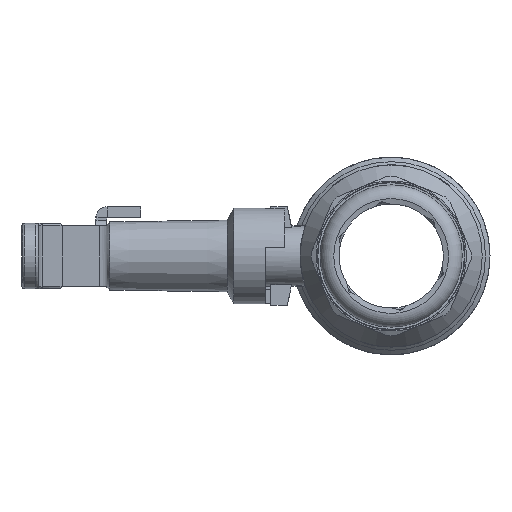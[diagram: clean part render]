
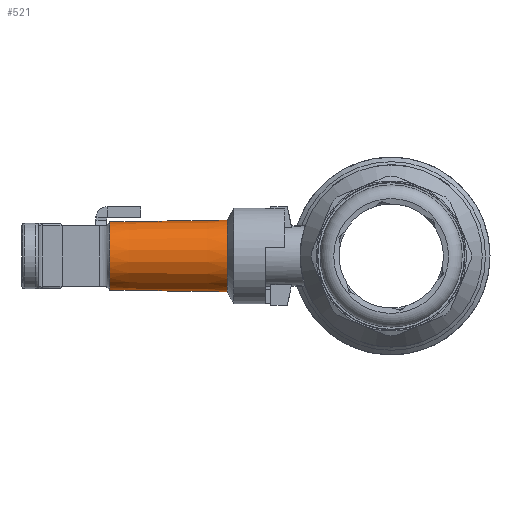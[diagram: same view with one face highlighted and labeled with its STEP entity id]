
A CAD part, left-side view. The second image highlights one B-rep face of the part: STEP entity #521.
In plain terms, the highlighted conical face has half-angle 0.781 degrees and reference radius 13.041 mm.
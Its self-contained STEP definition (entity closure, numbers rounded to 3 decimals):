
#490=CARTESIAN_POINT('',(0.189,102.986,-12.514));
#491=VERTEX_POINT('',#490);
#492=CARTESIAN_POINT('',(0.189,102.986,0.));
#493=DIRECTION('',(0.0,-1.0,0.0));
#494=DIRECTION('',(0.0,0.0,-1.0));
#495=AXIS2_PLACEMENT_3D('',#492,#493,#494);
#496=CIRCLE('',#495,12.514);
#497=EDGE_CURVE('',#491,#491,#496,.T.);
#502=CARTESIAN_POINT('',(0.189,64.302,0.0));
#503=DIRECTION('',(0.,-1.0,0.));
#504=DIRECTION('',(-1.0,0.0,0.0));
#505=AXIS2_PLACEMENT_3D('',#502,#503,#504);
#506=CONICAL_SURFACE('',#505,13.041,0.781);
#507=ORIENTED_EDGE('',*,*,#497,.T.);
#508=EDGE_LOOP('',(#507));
#509=FACE_OUTER_BOUND('',#508,.T.);
#510=CARTESIAN_POINT('',(0.189,60.004,-13.1));
#511=VERTEX_POINT('',#510);
#512=CARTESIAN_POINT('',(0.189,60.004,0.));
#513=DIRECTION('',(0.0,-1.0,0.0));
#514=DIRECTION('',(0.0,0.0,-1.0));
#515=AXIS2_PLACEMENT_3D('',#512,#513,#514);
#516=CIRCLE('',#515,13.1);
#517=EDGE_CURVE('',#511,#511,#516,.T.);
#518=ORIENTED_EDGE('',*,*,#517,.F.);
#519=EDGE_LOOP('',(#518));
#520=FACE_BOUND('',#519,.T.);
#521=ADVANCED_FACE('',(#509,#520),#506,.T.);
